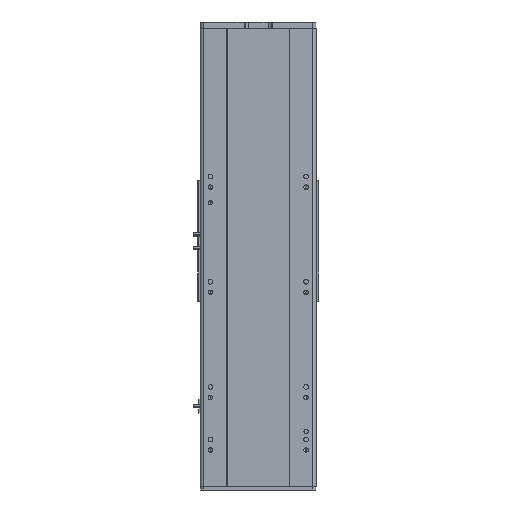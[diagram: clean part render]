
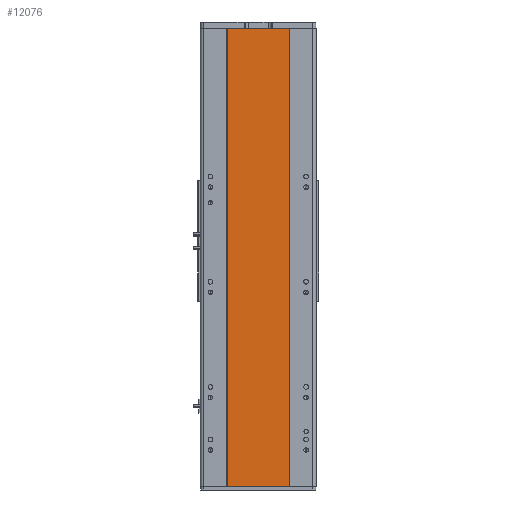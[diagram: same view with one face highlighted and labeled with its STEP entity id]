
A CAD part, front view. The second image highlights one B-rep face of the part: STEP entity #12076.
In plain terms, the highlighted planar face has unit normal (0, -1, 0).
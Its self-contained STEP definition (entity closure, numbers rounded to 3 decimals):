
#972 = DIRECTION ( 'NONE',  ( 1., 0., 0. ) ) ;
#1386 = CARTESIAN_POINT ( 'NONE',  ( -59., 1., 435.5 ) ) ;
#2696 = CARTESIAN_POINT ( 'NONE',  ( -59., 1., -435.5 ) ) ;
#2835 = DIRECTION ( 'NONE',  ( 1., 0., 0. ) ) ;
#3654 = ORIENTED_EDGE ( 'NONE', *, *, #30313, .T. ) ;
#4392 = CARTESIAN_POINT ( 'NONE',  ( 59., 1., 435.5 ) ) ;
#4655 = CARTESIAN_POINT ( 'NONE',  ( 59., 1., -435.5 ) ) ;
#4903 = FACE_OUTER_BOUND ( 'NONE', #5831, .T. ) ;
#5831 = EDGE_LOOP ( 'NONE', ( #9099, #27279, #16170, #3654 ) ) ;
#7006 = DIRECTION ( 'NONE',  ( 0., 0., -1. ) ) ;
#8912 = LINE ( 'NONE', #12807, #12881 ) ;
#8924 = EDGE_CURVE ( 'NONE', #19919, #33541, #34617, .T. ) ;
#9099 = ORIENTED_EDGE ( 'NONE', *, *, #8924, .T. ) ;
#9837 = VECTOR ( 'NONE', #7006, 1000. ) ;
#10126 = EDGE_CURVE ( 'NONE', #27478, #33530, #19103, .T. ) ;
#10730 = VECTOR ( 'NONE', #2835, 1000. ) ;
#12076 = ADVANCED_FACE ( 'NONE', ( #4903 ), #36126, .F. ) ;
#12807 = CARTESIAN_POINT ( 'NONE',  ( -59., 1., 435.5 ) ) ;
#12881 = VECTOR ( 'NONE', #35205, 1000. ) ;
#14761 = CARTESIAN_POINT ( 'NONE',  ( -59., 1., -435.5 ) ) ;
#16170 = ORIENTED_EDGE ( 'NONE', *, *, #10126, .F. ) ;
#16559 = CARTESIAN_POINT ( 'NONE',  ( -59., 1., 435.5 ) ) ;
#19103 = LINE ( 'NONE', #28522, #10730 ) ;
#19651 = VECTOR ( 'NONE', #972, 1000. ) ;
#19919 = VERTEX_POINT ( 'NONE', #2696 ) ;
#21215 = CARTESIAN_POINT ( 'NONE',  ( 59., 1., 435.5 ) ) ;
#21300 = LINE ( 'NONE', #4392, #9837 ) ;
#22272 = DIRECTION ( 'NONE',  ( -1., 0., 0. ) ) ;
#26612 = EDGE_CURVE ( 'NONE', #33530, #33541, #21300, .T. ) ;
#27279 = ORIENTED_EDGE ( 'NONE', *, *, #26612, .F. ) ;
#27478 = VERTEX_POINT ( 'NONE', #1386 ) ;
#28522 = CARTESIAN_POINT ( 'NONE',  ( -59., 1., 435.5 ) ) ;
#30313 = EDGE_CURVE ( 'NONE', #27478, #19919, #8912, .T. ) ;
#33530 = VERTEX_POINT ( 'NONE', #21215 ) ;
#33541 = VERTEX_POINT ( 'NONE', #4655 ) ;
#34617 = LINE ( 'NONE', #14761, #19651 ) ;
#34876 = AXIS2_PLACEMENT_3D ( 'NONE', #16559, #36254, #22272 ) ;
#35205 = DIRECTION ( 'NONE',  ( 0., 0., -1. ) ) ;
#36126 = PLANE ( 'NONE',  #34876 ) ;
#36254 = DIRECTION ( 'NONE',  ( 0., 1., 0. ) ) ;
